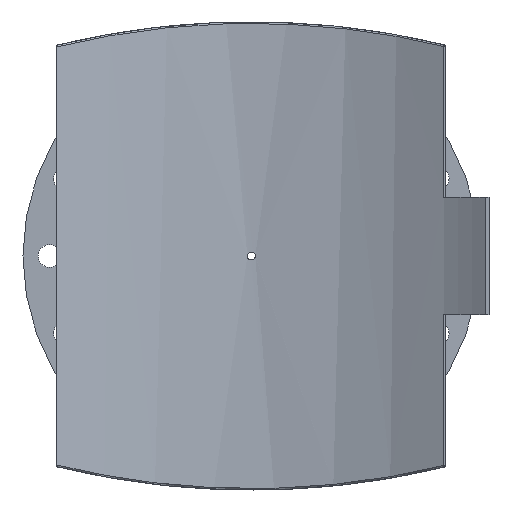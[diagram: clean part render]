
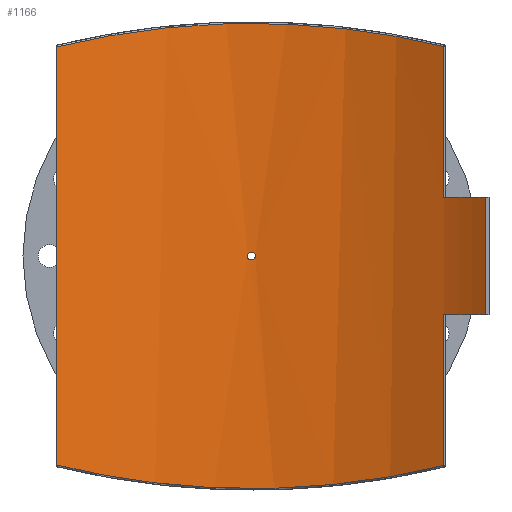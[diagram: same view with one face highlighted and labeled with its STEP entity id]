
A CAD part, front view. The second image highlights one B-rep face of the part: STEP entity #1166.
In plain terms, the highlighted cylindrical face has radius 500 mm (diameter 1000 mm), a partial arc.
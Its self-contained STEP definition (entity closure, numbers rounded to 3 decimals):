
#55=FACE_BOUND('',#379,.T.);
#117=B_SPLINE_CURVE_WITH_KNOTS('',3,(#2361,#2362,#2363,#2364,#2365,#2366,
#2367,#2368,#2369,#2370),.UNSPECIFIED.,.F.,.F.,(4,1,1,1,1,1,1,4),(-60.457,
-52.822,-45.187,-37.552,-29.917,
-22.282,-14.647,-7.012),.UNSPECIFIED.);
#118=B_SPLINE_CURVE_WITH_KNOTS('',3,(#2379,#2380,#2381,#2382,#2383,#2384,
#2385,#2386,#2387,#2388),.UNSPECIFIED.,.F.,.F.,(4,1,1,1,1,1,1,4),(-55.659,
-48.024,-40.389,-32.754,-25.119,
-17.484,-9.849,-2.214),.UNSPECIFIED.);
#119=B_SPLINE_CURVE_WITH_KNOTS('',3,(#2391,#2392,#2393,#2394,#2395,#2396,
#2397,#2398,#2399,#2400),.UNSPECIFIED.,.F.,.F.,(4,2,2,2,4),(0.,0.196,
0.392,0.588,0.784),.UNSPECIFIED.);
#120=B_SPLINE_CURVE_WITH_KNOTS('',3,(#2401,#2402,#2403,#2404,#2405,#2406,
#2407,#2408,#2409,#2410,#2411,#2412,#2413,#2414,#2415,#2416,#2417,#2418,
#2419,#2420,#2421,#2422,#2423,#2424,#2425,#2426),.UNSPECIFIED.,.F.,.F.,
(4,2,2,2,2,2,2,2,2,2,2,2,4),(0.784,0.979,1.175,
1.371,1.567,1.763,1.959,2.155,
2.351,2.546,2.742,2.938,3.134),
 .UNSPECIFIED.);
#141=LINE('',#1747,#196);
#152=LINE('',#2050,#207);
#159=LINE('',#2375,#214);
#160=LINE('',#2378,#215);
#196=VECTOR('',#1396,10.);
#207=VECTOR('',#1435,10.);
#214=VECTOR('',#1472,10.);
#215=VECTOR('',#1475,10.);
#260=CYLINDRICAL_SURFACE('',#1267,500.);
#308=FACE_OUTER_BOUND('',#378,.T.);
#378=EDGE_LOOP('',(#903,#904,#905,#906,#907,#908,#909,#910));
#379=EDGE_LOOP('',(#911,#912));
#485=CIRCLE('',#1268,500.);
#486=CIRCLE('',#1269,500.);
#554=VERTEX_POINT('',#1738);
#557=VERTEX_POINT('',#1745);
#577=VERTEX_POINT('',#2043);
#580=VERTEX_POINT('',#2048);
#593=VERTEX_POINT('',#2347);
#594=VERTEX_POINT('',#2372);
#595=VERTEX_POINT('',#2374);
#596=VERTEX_POINT('',#2377);
#597=VERTEX_POINT('',#2389);
#598=VERTEX_POINT('',#2390);
#665=EDGE_CURVE('',#557,#554,#141,.T.);
#695=EDGE_CURVE('',#580,#577,#152,.T.);
#718=EDGE_CURVE('',#593,#580,#117,.T.);
#719=EDGE_CURVE('',#594,#557,#485,.T.);
#720=EDGE_CURVE('',#594,#595,#159,.T.);
#721=EDGE_CURVE('',#577,#595,#486,.T.);
#722=EDGE_CURVE('',#596,#593,#160,.T.);
#723=EDGE_CURVE('',#554,#596,#118,.T.);
#724=EDGE_CURVE('',#597,#598,#119,.T.);
#725=EDGE_CURVE('',#598,#597,#120,.T.);
#903=ORIENTED_EDGE('',*,*,#719,.F.);
#904=ORIENTED_EDGE('',*,*,#720,.T.);
#905=ORIENTED_EDGE('',*,*,#721,.F.);
#906=ORIENTED_EDGE('',*,*,#695,.F.);
#907=ORIENTED_EDGE('',*,*,#718,.F.);
#908=ORIENTED_EDGE('',*,*,#722,.F.);
#909=ORIENTED_EDGE('',*,*,#723,.F.);
#910=ORIENTED_EDGE('',*,*,#665,.F.);
#911=ORIENTED_EDGE('',*,*,#724,.T.);
#912=ORIENTED_EDGE('',*,*,#725,.T.);
#1166=ADVANCED_FACE('',(#308,#55),#260,.F.);
#1267=AXIS2_PLACEMENT_3D('',#2371,#1468,#1469);
#1268=AXIS2_PLACEMENT_3D('',#2373,#1470,#1471);
#1269=AXIS2_PLACEMENT_3D('',#2376,#1473,#1474);
#1396=DIRECTION('',(0.,0.,-1.));
#1435=DIRECTION('',(0.,0.,-1.));
#1468=DIRECTION('center_axis',(0.,0.,1.));
#1469=DIRECTION('ref_axis',(-1.,0.,0.));
#1470=DIRECTION('center_axis',(0.,0.,1.));
#1471=DIRECTION('ref_axis',(-0.609,-0.793,0.));
#1472=DIRECTION('',(0.,0.,1.));
#1473=DIRECTION('center_axis',(0.,0.,-1.));
#1474=DIRECTION('ref_axis',(-0.609,-0.793,0.));
#1475=DIRECTION('',(0.,0.,1.));
#1738=CARTESIAN_POINT('',(250.349,432.811,-272.929));
#1745=CARTESIAN_POINT('',(250.349,432.811,-76.25));
#1747=CARTESIAN_POINT('',(250.349,432.811,0.));
#2043=CARTESIAN_POINT('',(250.349,432.811,76.25));
#2048=CARTESIAN_POINT('',(250.349,432.811,272.929));
#2050=CARTESIAN_POINT('',(250.349,432.811,0.));
#2347=CARTESIAN_POINT('',(-253.35,431.061,272.192));
#2361=CARTESIAN_POINT('Ctrl Pts',(-253.35,431.061,272.192));
#2362=CARTESIAN_POINT('Ctrl Pts',(-231.973,443.625,277.469));
#2363=CARTESIAN_POINT('Ctrl Pts',(-187.168,465.674,287.104));
#2364=CARTESIAN_POINT('Ctrl Pts',(-115.135,488.529,297.588));
#2365=CARTESIAN_POINT('Ctrl Pts',(-39.935,500.342,303.161));
#2366=CARTESIAN_POINT('Ctrl Pts',(36.375,500.613,303.289));
#2367=CARTESIAN_POINT('Ctrl Pts',(111.675,489.333,297.964));
#2368=CARTESIAN_POINT('Ctrl Pts',(183.896,466.977,287.691));
#2369=CARTESIAN_POINT('Ctrl Pts',(228.874,445.232,278.162));
#2370=CARTESIAN_POINT('Ctrl Pts',(250.349,432.811,272.929));
#2371=CARTESIAN_POINT('Origin',(0.,0.,0.));
#2372=CARTESIAN_POINT('',(304.596,396.512,-76.25));
#2373=CARTESIAN_POINT('Origin',(0.,0.,
-76.25));
#2374=CARTESIAN_POINT('',(304.596,396.512,76.25));
#2375=CARTESIAN_POINT('',(304.596,396.512,0.));
#2376=CARTESIAN_POINT('Origin',(0.,0.,
76.25));
#2377=CARTESIAN_POINT('',(-253.35,431.061,-272.192));
#2378=CARTESIAN_POINT('',(-253.35,431.061,0.));
#2379=CARTESIAN_POINT('Ctrl Pts',(250.349,432.811,-272.929));
#2380=CARTESIAN_POINT('Ctrl Pts',(228.874,445.232,-278.162));
#2381=CARTESIAN_POINT('Ctrl Pts',(183.896,466.977,-287.691));
#2382=CARTESIAN_POINT('Ctrl Pts',(111.675,489.333,-297.964));
#2383=CARTESIAN_POINT('Ctrl Pts',(36.376,500.613,-303.289));
#2384=CARTESIAN_POINT('Ctrl Pts',(-39.935,500.342,-303.161));
#2385=CARTESIAN_POINT('Ctrl Pts',(-115.135,488.529,-297.587));
#2386=CARTESIAN_POINT('Ctrl Pts',(-187.168,465.674,-287.105));
#2387=CARTESIAN_POINT('Ctrl Pts',(-231.973,443.625,-277.469));
#2388=CARTESIAN_POINT('Ctrl Pts',(-253.35,431.061,-272.192));
#2389=CARTESIAN_POINT('',(5.2,499.973,0.));
#2390=CARTESIAN_POINT('',(0.,500.,-5.2));
#2391=CARTESIAN_POINT('Ctrl Pts',(5.2,499.973,0.));
#2392=CARTESIAN_POINT('Ctrl Pts',(5.2,499.973,-0.653));
#2393=CARTESIAN_POINT('Ctrl Pts',(5.07,499.974,-1.349));
#2394=CARTESIAN_POINT('Ctrl Pts',(4.539,499.979,-2.631));
#2395=CARTESIAN_POINT('Ctrl Pts',(4.139,499.983,-3.215));
#2396=CARTESIAN_POINT('Ctrl Pts',(3.215,499.99,-4.139));
#2397=CARTESIAN_POINT('Ctrl Pts',(2.631,499.993,-4.539));
#2398=CARTESIAN_POINT('Ctrl Pts',(1.349,499.999,-5.07));
#2399=CARTESIAN_POINT('Ctrl Pts',(0.653,500.,-5.2));
#2400=CARTESIAN_POINT('Ctrl Pts',(0.,500.,-5.2));
#2401=CARTESIAN_POINT('Ctrl Pts',(0.,500.,-5.2));
#2402=CARTESIAN_POINT('Ctrl Pts',(-0.653,500.,-5.2));
#2403=CARTESIAN_POINT('Ctrl Pts',(-1.349,499.999,-5.07));
#2404=CARTESIAN_POINT('Ctrl Pts',(-2.631,499.993,-4.539));
#2405=CARTESIAN_POINT('Ctrl Pts',(-3.215,499.99,-4.139));
#2406=CARTESIAN_POINT('Ctrl Pts',(-4.139,499.983,-3.215));
#2407=CARTESIAN_POINT('Ctrl Pts',(-4.539,499.979,-2.631));
#2408=CARTESIAN_POINT('Ctrl Pts',(-5.07,499.974,-1.349));
#2409=CARTESIAN_POINT('Ctrl Pts',(-5.2,499.973,-0.653));
#2410=CARTESIAN_POINT('Ctrl Pts',(-5.2,499.973,0.653));
#2411=CARTESIAN_POINT('Ctrl Pts',(-5.07,499.974,1.349));
#2412=CARTESIAN_POINT('Ctrl Pts',(-4.539,499.979,2.631));
#2413=CARTESIAN_POINT('Ctrl Pts',(-4.139,499.983,3.215));
#2414=CARTESIAN_POINT('Ctrl Pts',(-3.215,499.99,4.139));
#2415=CARTESIAN_POINT('Ctrl Pts',(-2.631,499.993,4.539));
#2416=CARTESIAN_POINT('Ctrl Pts',(-1.349,499.999,5.07));
#2417=CARTESIAN_POINT('Ctrl Pts',(-0.653,500.,5.2));
#2418=CARTESIAN_POINT('Ctrl Pts',(0.653,500.,5.2));
#2419=CARTESIAN_POINT('Ctrl Pts',(1.349,499.999,5.07));
#2420=CARTESIAN_POINT('Ctrl Pts',(2.631,499.993,4.539));
#2421=CARTESIAN_POINT('Ctrl Pts',(3.215,499.99,4.139));
#2422=CARTESIAN_POINT('Ctrl Pts',(4.139,499.983,3.215));
#2423=CARTESIAN_POINT('Ctrl Pts',(4.539,499.979,2.631));
#2424=CARTESIAN_POINT('Ctrl Pts',(5.07,499.974,1.349));
#2425=CARTESIAN_POINT('Ctrl Pts',(5.2,499.973,0.653));
#2426=CARTESIAN_POINT('Ctrl Pts',(5.2,499.973,0.));
